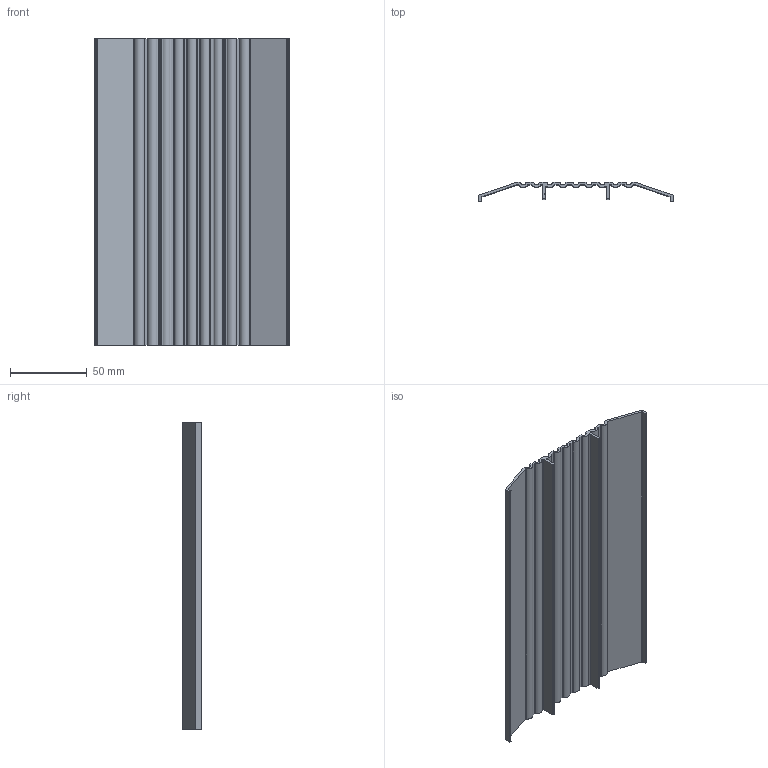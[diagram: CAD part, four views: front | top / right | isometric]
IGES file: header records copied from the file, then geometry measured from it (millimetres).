
Global section: file name: No Iges File Name specified; native system: Autodesk Inventor 2012; preprocessor: AutoDesk Inventor Iges Exporter R2012; author: anna.b; date: 20130614.101101; units: millimetre
Bounding box: 127 x 12.45 x 200 mm (x, y, z)
Volume: 54117.8 mm3; surface area: 67063.5 mm2
Topology: 1 solids, 1 shells, 103 faces, 303 edges, 202 vertices
Faces by surface type: plane 39, cylinder 35, revolution 29
